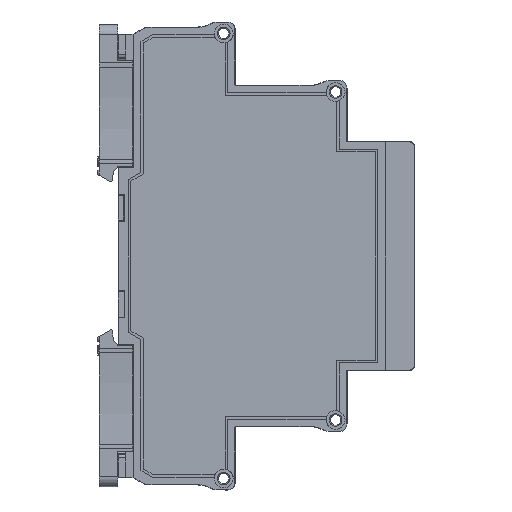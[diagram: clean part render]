
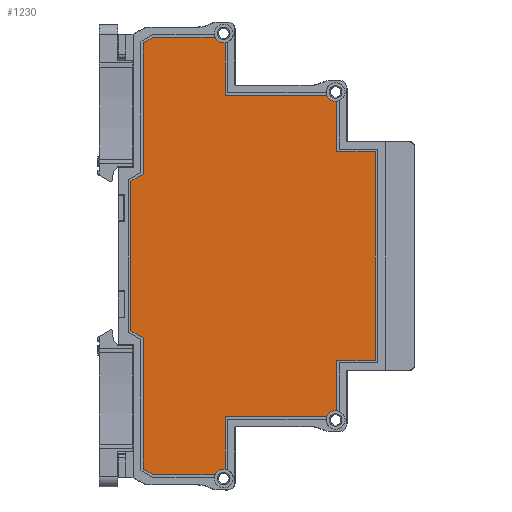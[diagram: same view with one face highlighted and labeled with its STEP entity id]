
A CAD part, front view. The second image highlights one B-rep face of the part: STEP entity #1230.
In plain terms, the highlighted planar face has unit normal (0, -1, 0) as drawn and (1, 0, 0) by its records, which use the part's own axes.
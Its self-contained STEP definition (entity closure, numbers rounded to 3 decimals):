
#1230=ADVANCED_FACE('',(#28758),#28760,.T.);
#28758=FACE_BOUND('',#28759,.T.);
#28759=EDGE_LOOP('',(#50788,#50789,#50790,#50791,#50792,#50793,#50794,#50795,#50796,
#50797,#50798,#50799,#50800,#50801,#50802,#50803,#50804,#50805,#50806,#50807,#50808,
#50809));
#28760=PLANE('',#28761);
#28761=AXIS2_PLACEMENT_3D('',#28762,#28763,#28764);
#28762=CARTESIAN_POINT('',(6.5,0.,0.));
#28763=DIRECTION('',(1.,0.,0.));
#28764=DIRECTION('',(0.,0.,-1.));
#50788=ORIENTED_EDGE('',*,*,#68592,.F.);
#50789=ORIENTED_EDGE('',*,*,#68593,.T.);
#50790=ORIENTED_EDGE('',*,*,#68510,.F.);
#50791=ORIENTED_EDGE('',*,*,#68594,.T.);
#50792=ORIENTED_EDGE('',*,*,#68595,.T.);
#50793=ORIENTED_EDGE('',*,*,#68596,.T.);
#50794=ORIENTED_EDGE('',*,*,#68597,.T.);
#50795=ORIENTED_EDGE('',*,*,#68598,.T.);
#50796=ORIENTED_EDGE('',*,*,#68494,.F.);
#50797=ORIENTED_EDGE('',*,*,#68599,.F.);
#50798=ORIENTED_EDGE('',*,*,#68600,.T.);
#50799=ORIENTED_EDGE('',*,*,#68504,.F.);
#50800=ORIENTED_EDGE('',*,*,#68601,.T.);
#50801=ORIENTED_EDGE('',*,*,#68602,.F.);
#50802=ORIENTED_EDGE('',*,*,#68603,.T.);
#50803=ORIENTED_EDGE('',*,*,#68604,.T.);
#50804=ORIENTED_EDGE('',*,*,#68605,.T.);
#50805=ORIENTED_EDGE('',*,*,#68606,.T.);
#50806=ORIENTED_EDGE('',*,*,#68607,.T.);
#50807=ORIENTED_EDGE('',*,*,#68608,.F.);
#50808=ORIENTED_EDGE('',*,*,#68609,.T.);
#50809=ORIENTED_EDGE('',*,*,#68520,.F.);
#68494=EDGE_CURVE('',#77216,#77201,#77218,.T.);
#68504=EDGE_CURVE('',#77236,#77221,#77238,.T.);
#68510=EDGE_CURVE('',#77248,#77250,#77251,.T.);
#68520=EDGE_CURVE('',#77268,#77270,#77271,.T.);
#68592=EDGE_CURVE('',#77409,#77268,#77410,.T.);
#68593=EDGE_CURVE('',#77409,#77250,#77411,.T.);
#68594=EDGE_CURVE('',#77248,#77412,#77413,.T.);
#68595=EDGE_CURVE('',#77412,#77414,#77415,.T.);
#68596=EDGE_CURVE('',#77414,#77416,#77417,.T.);
#68597=EDGE_CURVE('',#77416,#77418,#77419,.T.);
#68598=EDGE_CURVE('',#77418,#77201,#77420,.T.);
#68599=EDGE_CURVE('',#77421,#77216,#77422,.T.);
#68600=EDGE_CURVE('',#77421,#77221,#77423,.T.);
#68601=EDGE_CURVE('',#77236,#77424,#77425,.T.);
#68602=EDGE_CURVE('',#77426,#77424,#77427,.T.);
#68603=EDGE_CURVE('',#77426,#77428,#77429,.T.);
#68604=EDGE_CURVE('',#77428,#77430,#77431,.T.);
#68605=EDGE_CURVE('',#77430,#77432,#77433,.T.);
#68606=EDGE_CURVE('',#77432,#77434,#77435,.T.);
#68607=EDGE_CURVE('',#77434,#77436,#77437,.T.);
#68608=EDGE_CURVE('',#77438,#77436,#77439,.T.);
#68609=EDGE_CURVE('',#77438,#77270,#77440,.T.);
#77201=VERTEX_POINT('',#92278);
#77216=VERTEX_POINT('',#92311);
#77218=CIRCLE('',#92315,1.85);
#77221=VERTEX_POINT('',#92324);
#77236=VERTEX_POINT('',#92357);
#77238=CIRCLE('',#92361,1.85);
#77248=VERTEX_POINT('',#92385);
#77250=VERTEX_POINT('',#92389);
#77251=CIRCLE('',#92390,1.85);
#77268=VERTEX_POINT('',#92431);
#77270=VERTEX_POINT('',#92435);
#77271=CIRCLE('',#92436,1.85);
#77409=VERTEX_POINT('',#92740);
#77410=LINE('',#92741,#92742);
#77411=LINE('',#92744,#92745);
#77412=VERTEX_POINT('',#92747);
#77413=LINE('',#92748,#92749);
#77414=VERTEX_POINT('',#92751);
#77415=LINE('',#92752,#92753);
#77416=VERTEX_POINT('',#92755);
#77417=LINE('',#92756,#92757);
#77418=VERTEX_POINT('',#92759);
#77419=LINE('',#92760,#92761);
#77420=LINE('',#92763,#92764);
#77421=VERTEX_POINT('',#92766);
#77422=LINE('',#92767,#92768);
#77423=LINE('',#92770,#92771);
#77424=VERTEX_POINT('',#92773);
#77425=LINE('',#92774,#92775);
#77426=VERTEX_POINT('',#92777);
#77427=LINE('',#92778,#92779);
#77428=VERTEX_POINT('',#92781);
#77429=LINE('',#92782,#92783);
#77430=VERTEX_POINT('',#92785);
#77431=LINE('',#92786,#92787);
#77432=VERTEX_POINT('',#92789);
#77433=LINE('',#92790,#92791);
#77434=VERTEX_POINT('',#92793);
#77435=LINE('',#92794,#92795);
#77436=VERTEX_POINT('',#92797);
#77437=LINE('',#92798,#92799);
#77438=VERTEX_POINT('',#92801);
#77439=LINE('',#92802,#92803);
#77440=LINE('',#92805,#92806);
#92278=CARTESIAN_POINT('',(6.5,-30.541,38.985));
#92311=CARTESIAN_POINT('',(6.5,-31.7,37.015));
#92315=AXIS2_PLACEMENT_3D('',#92316,#92317,#92318);
#92316=CARTESIAN_POINT('',(6.5,-32.375,38.738));
#92317=DIRECTION('',(1.,0.,0.));
#92318=DIRECTION('',(0.,0.365,-0.931));
#92324=CARTESIAN_POINT('',(6.5,-42.103,16.897));
#92357=CARTESIAN_POINT('',(6.5,-43.2,14.953));
#92361=AXIS2_PLACEMENT_3D('',#92362,#92363,#92364);
#92362=CARTESIAN_POINT('',(6.5,-43.937,16.65));
#92363=DIRECTION('',(1.,0.,0.));
#92364=DIRECTION('',(0.,0.398,-0.917));
#92385=CARTESIAN_POINT('',(6.5,30.541,38.985));
#92389=CARTESIAN_POINT('',(6.5,31.7,37.015));
#92390=AXIS2_PLACEMENT_3D('',#92391,#92392,#92393);
#92391=CARTESIAN_POINT('',(6.5,32.375,38.738));
#92392=DIRECTION('',(1.,0.,0.));
#92393=DIRECTION('',(0.,-0.991,0.134));
#92431=CARTESIAN_POINT('',(6.5,42.103,16.897));
#92435=CARTESIAN_POINT('',(6.5,43.2,14.953));
#92436=AXIS2_PLACEMENT_3D('',#92437,#92438,#92439);
#92437=CARTESIAN_POINT('',(6.5,43.937,16.65));
#92438=DIRECTION('',(1.,0.,0.));
#92439=DIRECTION('',(0.,-0.991,0.134));
#92740=CARTESIAN_POINT('',(6.5,31.7,16.897));
#92741=CARTESIAN_POINT('',(6.5,31.7,16.897));
#92742=VECTOR('',#92743,1.);
#92743=DIRECTION('',(0.,1.,0.));
#92744=CARTESIAN_POINT('',(6.5,31.7,16.897));
#92745=VECTOR('',#92746,1.);
#92746=DIRECTION('',(0.,0.,1.));
#92747=CARTESIAN_POINT('',(6.5,20.6,38.985));
#92748=CARTESIAN_POINT('',(6.5,30.541,38.985));
#92749=VECTOR('',#92750,1.);
#92750=DIRECTION('',(0.,-1.,0.));
#92751=CARTESIAN_POINT('',(6.5,20.6,46.53));
#92752=CARTESIAN_POINT('',(6.5,20.6,38.985));
#92753=VECTOR('',#92754,1.);
#92754=DIRECTION('',(0.,0.,1.));
#92755=CARTESIAN_POINT('',(6.5,-20.6,46.53));
#92756=CARTESIAN_POINT('',(6.5,20.6,46.53));
#92757=VECTOR('',#92758,1.);
#92758=DIRECTION('',(0.,-1.,0.));
#92759=CARTESIAN_POINT('',(6.5,-20.6,38.985));
#92760=CARTESIAN_POINT('',(6.5,-20.6,46.53));
#92761=VECTOR('',#92762,1.);
#92762=DIRECTION('',(0.,0.,-1.));
#92763=CARTESIAN_POINT('',(6.5,-20.6,38.985));
#92764=VECTOR('',#92765,1.);
#92765=DIRECTION('',(0.,-1.,0.));
#92766=CARTESIAN_POINT('',(6.5,-31.7,16.897));
#92767=CARTESIAN_POINT('',(6.5,-31.7,16.897));
#92768=VECTOR('',#92769,1.);
#92769=DIRECTION('',(0.,0.,1.));
#92770=CARTESIAN_POINT('',(6.5,-31.7,16.897));
#92771=VECTOR('',#92772,1.);
#92772=DIRECTION('',(0.,-1.,0.));
#92773=CARTESIAN_POINT('',(6.5,-43.2,2.761));
#92774=CARTESIAN_POINT('',(6.5,-43.2,14.953));
#92775=VECTOR('',#92776,1.);
#92776=DIRECTION('',(0.,0.,-1.));
#92777=CARTESIAN_POINT('',(6.5,-42.068,0.8));
#92778=CARTESIAN_POINT('',(6.5,-42.068,0.8));
#92779=VECTOR('',#92780,1.);
#92780=DIRECTION('',(0.,-0.5,0.866));
#92781=CARTESIAN_POINT('',(6.5,-16.211,0.8));
#92782=CARTESIAN_POINT('',(6.5,-42.068,0.8));
#92783=VECTOR('',#92784,1.);
#92784=DIRECTION('',(0.,1.,0.));
#92785=CARTESIAN_POINT('',(6.5,-14.768,-1.7));
#92786=CARTESIAN_POINT('',(6.5,-16.211,0.8));
#92787=VECTOR('',#92788,1.);
#92788=DIRECTION('',(0.,0.5,-0.866));
#92789=CARTESIAN_POINT('',(6.5,14.768,-1.7));
#92790=CARTESIAN_POINT('',(6.5,-14.768,-1.7));
#92791=VECTOR('',#92792,1.);
#92792=DIRECTION('',(0.,1.,0.));
#92793=CARTESIAN_POINT('',(6.5,16.211,0.8));
#92794=CARTESIAN_POINT('',(6.5,14.768,-1.7));
#92795=VECTOR('',#92796,1.);
#92796=DIRECTION('',(0.,0.5,0.866));
#92797=CARTESIAN_POINT('',(6.5,42.068,0.8));
#92798=CARTESIAN_POINT('',(6.5,16.211,0.8));
#92799=VECTOR('',#92800,1.);
#92800=DIRECTION('',(0.,1.,0.));
#92801=CARTESIAN_POINT('',(6.5,43.2,2.761));
#92802=CARTESIAN_POINT('',(6.5,43.2,2.761));
#92803=VECTOR('',#92804,1.);
#92804=DIRECTION('',(0.,-0.5,-0.866));
#92805=CARTESIAN_POINT('',(6.5,43.2,2.761));
#92806=VECTOR('',#92807,1.);
#92807=DIRECTION('',(0.,0.,1.));
